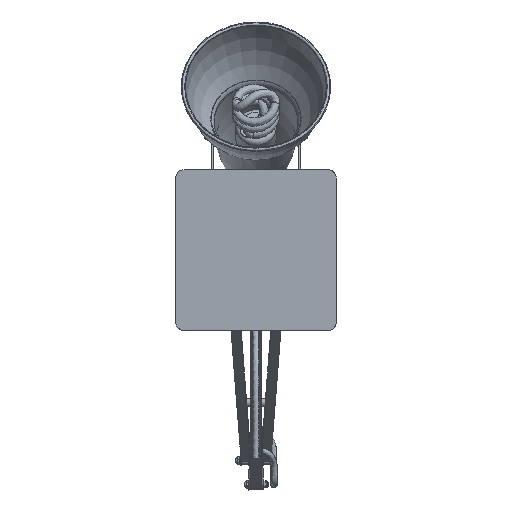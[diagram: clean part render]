
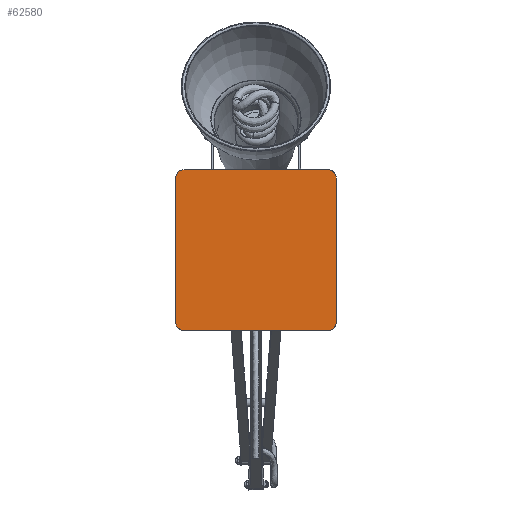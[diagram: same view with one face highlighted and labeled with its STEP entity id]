
A CAD part, front view. The second image highlights one B-rep face of the part: STEP entity #62580.
In plain terms, the highlighted planar face has unit normal (0, -1, 0).
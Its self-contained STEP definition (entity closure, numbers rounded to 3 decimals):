
#117 = ORIENTED_EDGE ( 'NONE', *, *, #84090, .F. ) ;
#503 = DIRECTION ( 'NONE',  ( 0., 0., -1. ) ) ;
#2235 = DIRECTION ( 'NONE',  ( 0., -1., 0. ) ) ;
#3004 = CARTESIAN_POINT ( 'NONE',  ( -113.864, -367.106, 154.429 ) ) ;
#3631 = LINE ( 'NONE', #91471, #22654 ) ;
#4151 = CARTESIAN_POINT ( 'NONE',  ( 37.636, -367.106, 154.429 ) ) ;
#4521 = CARTESIAN_POINT ( 'NONE',  ( -113.864, -367.106, 146.429 ) ) ;
#6473 = EDGE_CURVE ( 'Defeatured_1495+Defeatured_1496+Defeatured_1491+Defeatured_1494', #37345, #48746, #76085, .T. ) ;
#12096 = EDGE_CURVE ( 'Defeatured_1495+Defeatured_1499+Defeatured_1492+Defeatured_1491', #35639, #78683, #94490, .T. ) ;
#12853 = LINE ( 'NONE', #3004, #53492 ) ;
#13095 = AXIS2_PLACEMENT_3D ( 'NONE', #97745, #49140, #503 ) ;
#15113 = CARTESIAN_POINT ( 'NONE',  ( -105.864, -367.106, 10.929 ) ) ;
#18009 = EDGE_CURVE ( 'Defeatured_1492+Defeatured_1495+Defeatured_1499+Defeatured_1498', #35639, #86623, #80031, .T. ) ;
#20988 = DIRECTION ( 'NONE',  ( 0., -1., 0. ) ) ;
#22654 = VECTOR ( 'NONE', #34657, 1000. ) ;
#23301 = DIRECTION ( 'NONE',  ( 0., 0., -1. ) ) ;
#27032 = CARTESIAN_POINT ( 'NONE',  ( -113.864, -367.106, 154.429 ) ) ;
#29164 = LINE ( 'NONE', #4151, #31696 ) ;
#30356 = CARTESIAN_POINT ( 'NONE',  ( -113.864, -367.106, 10.929 ) ) ;
#31696 = VECTOR ( 'NONE', #52756, 1000. ) ;
#34657 = DIRECTION ( 'NONE',  ( -1., 0., 0. ) ) ;
#35627 = DIRECTION ( 'NONE',  ( 0., 0., 1. ) ) ;
#35639 = VERTEX_POINT ( 'NONE', #97750 ) ;
#36837 = VECTOR ( 'NONE', #67501, 1000. ) ;
#37314 = FACE_OUTER_BOUND ( 'NONE', #84574, .T. ) ;
#37345 = VERTEX_POINT ( 'NONE', #30356 ) ;
#42424 = ORIENTED_EDGE ( 'NONE', *, *, #80775, .F. ) ;
#43397 = DIRECTION ( 'NONE',  ( 0., -1., 0. ) ) ;
#44039 = EDGE_CURVE ( 'Defeatured_1495+Defeatured_1497+Defeatured_1494+Defeatured_1493', #53902, #69557, #103188, .T. ) ;
#46916 = EDGE_CURVE ( 'Defeatured_1493+Defeatured_1495+Defeatured_1498+Defeatured_1497', #50394, #69557, #29164, .T. ) ;
#48746 = VERTEX_POINT ( 'NONE', #72135 ) ;
#49140 = DIRECTION ( 'NONE',  ( 0., -1., 0. ) ) ;
#50154 = ORIENTED_EDGE ( 'NONE', *, *, #18009, .F. ) ;
#50394 = VERTEX_POINT ( 'NONE', #72501 ) ;
#50428 = CARTESIAN_POINT ( 'NONE',  ( 29.636, -367.106, 2.929 ) ) ;
#50851 = CARTESIAN_POINT ( 'NONE',  ( 29.636, -367.106, 146.429 ) ) ;
#51633 = AXIS2_PLACEMENT_3D ( 'NONE', #50851, #2235, #58997 ) ;
#52756 = DIRECTION ( 'NONE',  ( 0., 0., -1. ) ) ;
#53492 = VECTOR ( 'NONE', #35627, 1000. ) ;
#53902 = VERTEX_POINT ( 'NONE', #50428 ) ;
#58556 = CARTESIAN_POINT ( 'NONE',  ( 37.636, -367.106, 10.929 ) ) ;
#58997 = DIRECTION ( 'NONE',  ( 0., 0., -1. ) ) ;
#59844 = ORIENTED_EDGE ( 'NONE', *, *, #46916, .F. ) ;
#62580 = ADVANCED_FACE ( 'Defeatured_1495', ( #37314 ), #91719, .T. ) ;
#63817 = ORIENTED_EDGE ( 'NONE', *, *, #6473, .T. ) ;
#65000 = AXIS2_PLACEMENT_3D ( 'NONE', #69623, #20988, #77780 ) ;
#67501 = DIRECTION ( 'NONE',  ( 1., 0., 0. ) ) ;
#67763 = ORIENTED_EDGE ( 'NONE', *, *, #92621, .T. ) ;
#69557 = VERTEX_POINT ( 'NONE', #58556 ) ;
#69623 = CARTESIAN_POINT ( 'NONE',  ( 29.636, -367.106, 10.929 ) ) ;
#71930 = DIRECTION ( 'NONE',  ( 0., -1., 0. ) ) ;
#72135 = CARTESIAN_POINT ( 'NONE',  ( -105.864, -367.106, 2.929 ) ) ;
#72501 = CARTESIAN_POINT ( 'NONE',  ( 37.636, -367.106, 146.429 ) ) ;
#72705 = AXIS2_PLACEMENT_3D ( 'NONE', #92073, #43397, #100205 ) ;
#73559 = ORIENTED_EDGE ( 'NONE', *, *, #12096, .T. ) ;
#74487 = AXIS2_PLACEMENT_3D ( 'NONE', #15113, #71930, #23301 ) ;
#76085 = CIRCLE ( 'NONE', #74487, 8. ) ;
#77780 = DIRECTION ( 'NONE',  ( 0., 0., -1. ) ) ;
#78683 = VERTEX_POINT ( 'NONE', #4521 ) ;
#80031 = LINE ( 'NONE', #27032, #36837 ) ;
#80775 = EDGE_CURVE ( 'Defeatured_1491+Defeatured_1495+Defeatured_1496+Defeatured_1499', #37345, #78683, #12853, .T. ) ;
#84090 = EDGE_CURVE ( 'Defeatured_1494+Defeatured_1495+Defeatured_1497+Defeatured_1496', #53902, #48746, #3631, .T. ) ;
#84574 = EDGE_LOOP ( 'NONE', ( #42424, #63817, #117, #85608, #59844, #67763, #50154, #73559 ) ) ;
#85608 = ORIENTED_EDGE ( 'NONE', *, *, #44039, .T. ) ;
#86623 = VERTEX_POINT ( 'NONE', #89121 ) ;
#89121 = CARTESIAN_POINT ( 'NONE',  ( 29.636, -367.106, 154.429 ) ) ;
#91471 = CARTESIAN_POINT ( 'NONE',  ( -113.864, -367.106, 2.929 ) ) ;
#91719 = PLANE ( 'NONE',  #72705 ) ;
#92073 = CARTESIAN_POINT ( 'NONE',  ( -113.864, -367.106, 154.429 ) ) ;
#92621 = EDGE_CURVE ( 'Defeatured_1495+Defeatured_1498+Defeatured_1493+Defeatured_1492', #50394, #86623, #96907, .T. ) ;
#94490 = CIRCLE ( 'NONE', #13095, 8. ) ;
#96907 = CIRCLE ( 'NONE', #51633, 8. ) ;
#97745 = CARTESIAN_POINT ( 'NONE',  ( -105.864, -367.106, 146.429 ) ) ;
#97750 = CARTESIAN_POINT ( 'NONE',  ( -105.864, -367.106, 154.429 ) ) ;
#100205 = DIRECTION ( 'NONE',  ( 0., 0., -1. ) ) ;
#103188 = CIRCLE ( 'NONE', #65000, 8. ) ;
